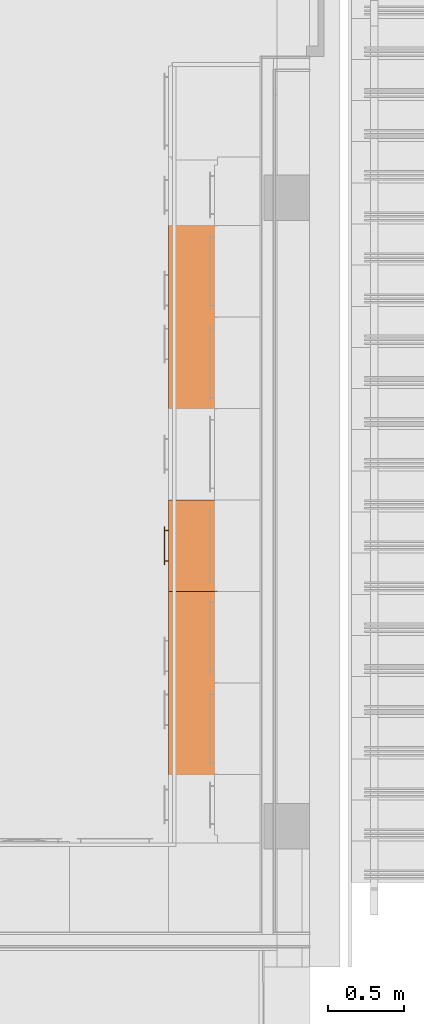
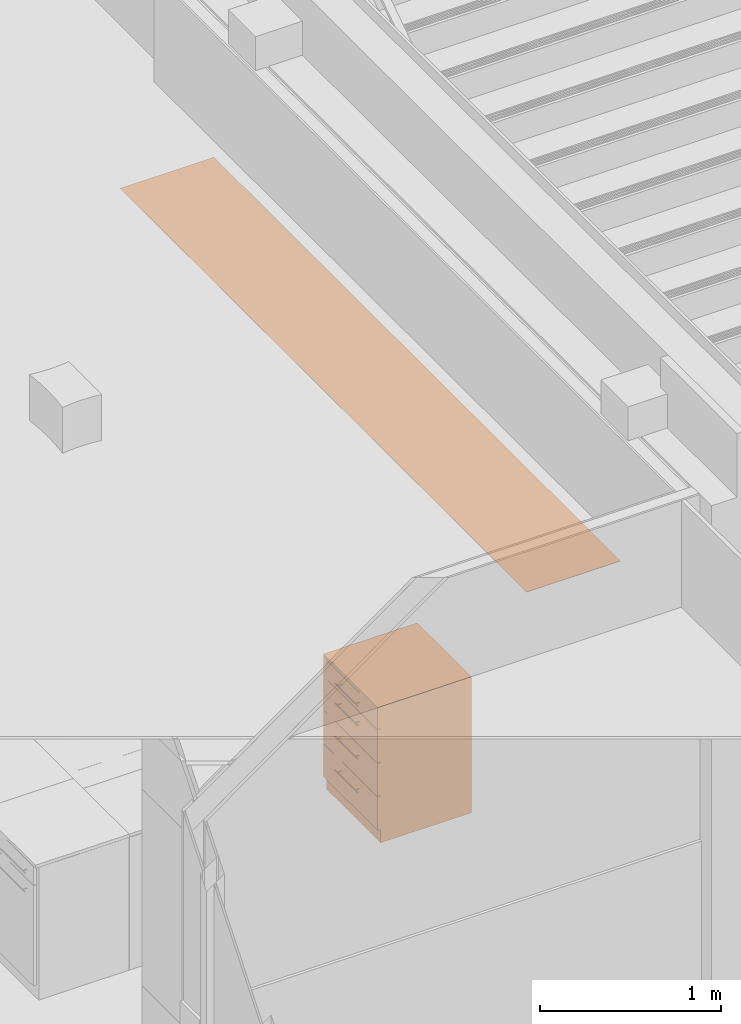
# One storey, part 146 of 167: 2 proxies.
"""IFC2X3 building model written with IfcOpenShell, lengths in millimetres."""

from ifc_helpers import new_model, entity, si_unit, converted_unit, derived_unit, money_unit, direction, frame, origin_with_axes, place, context, subcontext, project, spatial, open_shell, faceted_brep, surface_model, material, type_object, element, save


model = new_model("IFC2X3")

# Units and contexts
model_context = context("Model", 3, precision=0.01, world=origin_with_axes(), true_north=direction((0.0, 1.0)))
plan_context = context("Plan", 3, precision=0.01, world=origin_with_axes(), true_north=direction((0.0, 1.0)))
body_context = subcontext(model_context, "Body", "Model", "MODEL_VIEW")
ifc_project = project(units=[si_unit("LENGTHUNIT", "METRE", prefix="MILLI"), si_unit("AREAUNIT", "SQUARE_METRE"), si_unit("VOLUMEUNIT", "CUBIC_METRE"), converted_unit("PLANEANGLEUNIT", "DEGREE", entity("IfcPlaneAngleMeasure", 0.0174532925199), si_unit("PLANEANGLEUNIT", "RADIAN"), dimensions=[0, 0, 0, 0, 0, 0, 0]), si_unit("SOLIDANGLEUNIT", "STERADIAN"), money_unit("EUR"), converted_unit("TIMEUNIT", "Year", entity("IfcTimeMeasure", 31556926.0), si_unit("TIMEUNIT", "SECOND"), dimensions=[0, 0, 1, 0, 0, 0, 0]), si_unit("MASSUNIT", "GRAM", prefix="KILO"), si_unit("THERMODYNAMICTEMPERATUREUNIT", "DEGREE_CELSIUS"), si_unit("LUMINOUSINTENSITYUNIT", "LUMEN"), si_unit("ENERGYUNIT", "JOULE", prefix="MEGA"), derived_unit("THERMALCONDUCTANCEUNIT", [(si_unit("POWERUNIT", "WATT"), 1), (si_unit("LENGTHUNIT", "METRE"), -1), (si_unit("THERMODYNAMICTEMPERATUREUNIT", "KELVIN"), -1)]), derived_unit("SPECIFICHEATCAPACITYUNIT", [(si_unit("ENERGYUNIT", "JOULE"), 1), (si_unit("MASSUNIT", "GRAM", prefix="KILO"), -1), (si_unit("THERMODYNAMICTEMPERATUREUNIT", "KELVIN"), -1)]), derived_unit("MASSDENSITYUNIT", [(si_unit("MASSUNIT", "GRAM", prefix="KILO"), 1), (si_unit("VOLUMEUNIT", "CUBIC_METRE"), -1)])], contexts=[model_context, plan_context])

# Site, building, storey
site_placement = place(None, origin_with_axes())
site = spatial("IfcSite", under=ifc_project, at=site_placement, Name="Site", CompositionType="ELEMENT")
building_placement = place(site_placement, origin_with_axes())
building = spatial("IfcBuilding", under=site, at=building_placement, Name="Naam gebouw", CompositionType="ELEMENT")
storey_placement = place(building_placement, origin_with_axes())
storey = spatial("IfcBuildingStorey", under=building, at=storey_placement, Name="Begane grond", CompositionType="ELEMENT", Elevation=0.0)

# Proxies
building_element_proxy_type_1 = type_object("IfcBuildingElementProxyType", Name="Kast basis multilade 24", PredefinedType="NOTDEFINED")
proxy_1_placement = place(storey_placement, frame((27875.0, 26816.7322881, 0.0), z_axis=(0.0, 0.0, 1.0), x_axis=(0.0, -1.0, 0.0)))
element("IfcBuildingElementProxy", 1, at=proxy_1_placement, inside=storey, type_object=building_element_proxy_type_1, Name="__Object-x", context=body_context, shape_type="SurfaceModel", body=[
    faceted_brep([(1.5, 20.0, 91.5), (598.5, 20.0, 91.5), (598.5, 0.0, 91.5), (1.5, 0.0, 91.5), (1.5, 20.0, 315.166666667), (598.5, 20.0, 315.166666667), (598.5, 0.0, 315.166666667), (1.5, 0.0, 315.166666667)], [[[0, 1, 2, 3]], [[0, 4, 5, 1]], [[1, 5, 6, 2]], [[3, 2, 6, 7]], [[4, 0, 3, 7]], [[5, 4, 7, 6]]]),
    faceted_brep([(175.0, -28.1480502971, 248.895028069), (175.0, -29.1213203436, 249.545346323), (175.0, -29.7716385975, 250.51861637), (175.0, -30.0, 251.666666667), (175.0, -29.7716385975, 252.814716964), (175.0, -29.1213203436, 253.78798701), (175.0, -28.1480502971, 254.438305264), (175.0, -27.0, 254.666666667), (175.0, -25.8519497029, 254.438305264), (175.0, -24.8786796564, 253.78798701), (175.0, -24.2283614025, 252.814716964), (175.0, -24.0, 251.666666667), (175.0, -24.2283614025, 250.51861637), (175.0, -24.8786796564, 249.545346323), (175.0, -25.8519497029, 248.895028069), (175.0, -27.0, 248.666666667), (425.0, -28.1480502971, 248.895028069), (425.0, -29.1213203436, 249.545346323), (425.0, -29.7716385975, 250.51861637), (425.0, -30.0, 251.666666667), (425.0, -29.7716385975, 252.814716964), (425.0, -29.1213203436, 253.78798701), (425.0, -28.1480502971, 254.438305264), (425.0, -27.0, 254.666666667), (425.0, -25.8519497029, 254.438305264), (425.0, -24.8786796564, 253.78798701), (425.0, -24.2283614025, 252.814716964), (425.0, -24.0, 251.666666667), (425.0, -24.2283614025, 250.51861637), (425.0, -24.8786796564, 249.545346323), (425.0, -25.8519497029, 248.895028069), (425.0, -27.0, 248.666666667)], [[[0, 1, 2, 3, 4, 5, 6, 7, 8, 9, 10, 11, 12, 13, 14, 15]], [[1, 0, 16, 17]], [[2, 1, 17, 18]], [[3, 2, 18, 19]], [[4, 3, 19, 20]], [[5, 4, 20, 21]], [[6, 5, 21, 22]], [[7, 6, 22, 23]], [[8, 7, 23, 24]], [[9, 8, 24, 25]], [[10, 9, 25, 26]], [[11, 10, 26, 27]], [[12, 11, 27, 28]], [[13, 12, 28, 29]], [[14, 13, 29, 30]], [[15, 14, 30, 31]], [[0, 15, 31, 16]], [[16, 31, 30, 29, 28, 27, 26, 25, 24, 23, 22, 21, 20, 19, 18, 17]]]),
    surface_model("IfcShellBasedSurfaceModel", [(197.690301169, -24.156637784, 250.709958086), (197.5, -24.0, 251.666666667), (197.5, 0.0, 251.666666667), (197.690301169, 0.0, 250.709958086), (197.690301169, -24.156637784, 252.623375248), (197.690301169, 0.0, 252.623375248), (198.232233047, 0.0, 253.43443362), (199.043291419, 0.0, 253.976365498), (200.0, 0.0, 254.166666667), (200.956708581, 0.0, 253.976365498), (201.767766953, 0.0, 253.43443362), (202.309698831, 0.0, 252.623375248), (202.5, 0.0, 251.666666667), (202.309698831, 0.0, 250.709958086), (201.767766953, 0.0, 249.898899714), (200.956708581, 0.0, 249.356967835), (200.0, 0.0, 249.166666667), (199.043291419, 0.0, 249.356967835), (198.232233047, 0.0, 249.898899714), (198.232233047, -24.5761600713, 249.898899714), (198.232233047, -24.5761600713, 253.43443362), (199.043291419, -25.0855049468, 253.976365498), (200.0, -25.3416876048, 254.166666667), (200.956708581, -25.0855049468, 253.976365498), (201.767766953, -24.5761600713, 253.43443362), (202.309698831, -24.156637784, 252.623375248), (202.5, -24.0, 251.666666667), (202.309698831, -24.156637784, 250.709958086), (201.767766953, -24.5761600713, 249.898899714), (200.956708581, -25.0855049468, 249.356967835), (200.0, -25.3416876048, 249.166666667), (199.043291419, -25.0855049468, 249.356967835)], [open_shell([[[0, 1, 2, 3]], [[1, 4, 5, 2]], [[3, 2, 5, 6, 7, 8, 9, 10, 11, 12, 13, 14, 15, 16, 17, 18]], [[19, 0, 3, 18]], [[4, 20, 6, 5]], [[20, 21, 7, 6]], [[21, 22, 8, 7]], [[22, 23, 9, 8]], [[23, 24, 10, 9]], [[24, 25, 11, 10]], [[25, 26, 12, 11]], [[26, 27, 13, 12]], [[27, 28, 14, 13]], [[28, 29, 15, 14]], [[29, 30, 16, 15]], [[30, 31, 17, 16]], [[31, 19, 18, 17]]])]),
    surface_model("IfcShellBasedSurfaceModel", [(397.690301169, -24.156637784, 250.709958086), (397.5, -24.0, 251.666666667), (397.5, 0.0, 251.666666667), (397.690301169, 0.0, 250.709958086), (397.690301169, -24.156637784, 252.623375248), (397.690301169, 0.0, 252.623375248), (398.232233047, 0.0, 253.43443362), (399.043291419, 0.0, 253.976365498), (400.0, 0.0, 254.166666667), (400.956708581, 0.0, 253.976365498), (401.767766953, 0.0, 253.43443362), (402.309698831, 0.0, 252.623375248), (402.5, 0.0, 251.666666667), (402.309698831, 0.0, 250.709958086), (401.767766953, 0.0, 249.898899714), (400.956708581, 0.0, 249.356967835), (400.0, 0.0, 249.166666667), (399.043291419, 0.0, 249.356967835), (398.232233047, 0.0, 249.898899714), (398.232233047, -24.5761600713, 249.898899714), (398.232233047, -24.5761600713, 253.43443362), (399.043291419, -25.0855049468, 253.976365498), (400.0, -25.3416876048, 254.166666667), (400.956708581, -25.0855049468, 253.976365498), (401.767766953, -24.5761600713, 253.43443362), (402.309698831, -24.156637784, 252.623375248), (402.5, -24.0, 251.666666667), (402.309698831, -24.156637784, 250.709958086), (401.767766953, -24.5761600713, 249.898899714), (400.956708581, -25.0855049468, 249.356967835), (400.0, -25.3416876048, 249.166666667), (399.043291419, -25.0855049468, 249.356967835)], [open_shell([[[0, 1, 2, 3]], [[1, 4, 5, 2]], [[3, 2, 5, 6, 7, 8, 9, 10, 11, 12, 13, 14, 15, 16, 17, 18]], [[19, 0, 3, 18]], [[4, 20, 6, 5]], [[20, 21, 7, 6]], [[21, 22, 8, 7]], [[22, 23, 9, 8]], [[23, 24, 10, 9]], [[24, 25, 11, 10]], [[25, 26, 12, 11]], [[26, 27, 13, 12]], [[27, 28, 14, 13]], [[28, 29, 15, 14]], [[29, 30, 16, 15]], [[30, 31, 17, 16]], [[31, 19, 18, 17]]])]),
    faceted_brep([(1.5, 20.0, 318.166666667), (598.5, 20.0, 318.166666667), (598.5, 0.0, 318.166666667), (1.5, 0.0, 318.166666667), (1.5, 20.0, 541.833333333), (598.5, 20.0, 541.833333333), (598.5, 0.0, 541.833333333), (1.5, 0.0, 541.833333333)], [[[0, 1, 2, 3]], [[0, 4, 5, 1]], [[1, 5, 6, 2]], [[3, 2, 6, 7]], [[4, 0, 3, 7]], [[5, 4, 7, 6]]]),
    faceted_brep([(175.0, -28.1480502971, 475.561694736), (175.0, -29.1213203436, 476.21201299), (175.0, -29.7716385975, 477.185283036), (175.0, -30.0, 478.333333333), (175.0, -29.7716385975, 479.48138363), (175.0, -29.1213203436, 480.454653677), (175.0, -28.1480502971, 481.104971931), (175.0, -27.0, 481.333333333), (175.0, -25.8519497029, 481.104971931), (175.0, -24.8786796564, 480.454653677), (175.0, -24.2283614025, 479.48138363), (175.0, -24.0, 478.333333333), (175.0, -24.2283614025, 477.185283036), (175.0, -24.8786796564, 476.21201299), (175.0, -25.8519497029, 475.561694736), (175.0, -27.0, 475.333333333), (425.0, -28.1480502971, 475.561694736), (425.0, -29.1213203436, 476.21201299), (425.0, -29.7716385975, 477.185283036), (425.0, -30.0, 478.333333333), (425.0, -29.7716385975, 479.48138363), (425.0, -29.1213203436, 480.454653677), (425.0, -28.1480502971, 481.104971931), (425.0, -27.0, 481.333333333), (425.0, -25.8519497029, 481.104971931), (425.0, -24.8786796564, 480.454653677), (425.0, -24.2283614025, 479.48138363), (425.0, -24.0, 478.333333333), (425.0, -24.2283614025, 477.185283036), (425.0, -24.8786796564, 476.21201299), (425.0, -25.8519497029, 475.561694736), (425.0, -27.0, 475.333333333)], [[[0, 1, 2, 3, 4, 5, 6, 7, 8, 9, 10, 11, 12, 13, 14, 15]], [[1, 0, 16, 17]], [[2, 1, 17, 18]], [[3, 2, 18, 19]], [[4, 3, 19, 20]], [[5, 4, 20, 21]], [[6, 5, 21, 22]], [[7, 6, 22, 23]], [[8, 7, 23, 24]], [[9, 8, 24, 25]], [[10, 9, 25, 26]], [[11, 10, 26, 27]], [[12, 11, 27, 28]], [[13, 12, 28, 29]], [[14, 13, 29, 30]], [[15, 14, 30, 31]], [[0, 15, 31, 16]], [[16, 31, 30, 29, 28, 27, 26, 25, 24, 23, 22, 21, 20, 19, 18, 17]]]),
    surface_model("IfcShellBasedSurfaceModel", [(197.690301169, -24.156637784, 477.376624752), (197.5, -24.0, 478.333333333), (197.5, 0.0, 478.333333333), (197.690301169, 0.0, 477.376624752), (197.690301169, -24.156637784, 479.290041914), (197.690301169, 0.0, 479.290041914), (198.232233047, 0.0, 480.101100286), (199.043291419, 0.0, 480.643032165), (200.0, 0.0, 480.833333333), (200.956708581, 0.0, 480.643032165), (201.767766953, 0.0, 480.101100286), (202.309698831, 0.0, 479.290041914), (202.5, 0.0, 478.333333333), (202.309698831, 0.0, 477.376624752), (201.767766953, 0.0, 476.56556638), (200.956708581, 0.0, 476.023634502), (200.0, 0.0, 475.833333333), (199.043291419, 0.0, 476.023634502), (198.232233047, 0.0, 476.56556638), (198.232233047, -24.5761600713, 476.56556638), (198.232233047, -24.5761600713, 480.101100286), (199.043291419, -25.0855049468, 480.643032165), (200.0, -25.3416876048, 480.833333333), (200.956708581, -25.0855049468, 480.643032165), (201.767766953, -24.5761600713, 480.101100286), (202.309698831, -24.156637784, 479.290041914), (202.5, -24.0, 478.333333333), (202.309698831, -24.156637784, 477.376624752), (201.767766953, -24.5761600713, 476.56556638), (200.956708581, -25.0855049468, 476.023634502), (200.0, -25.3416876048, 475.833333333), (199.043291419, -25.0855049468, 476.023634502)], [open_shell([[[0, 1, 2, 3]], [[1, 4, 5, 2]], [[3, 2, 5, 6, 7, 8, 9, 10, 11, 12, 13, 14, 15, 16, 17, 18]], [[19, 0, 3, 18]], [[4, 20, 6, 5]], [[20, 21, 7, 6]], [[21, 22, 8, 7]], [[22, 23, 9, 8]], [[23, 24, 10, 9]], [[24, 25, 11, 10]], [[25, 26, 12, 11]], [[26, 27, 13, 12]], [[27, 28, 14, 13]], [[28, 29, 15, 14]], [[29, 30, 16, 15]], [[30, 31, 17, 16]], [[31, 19, 18, 17]]])]),
    surface_model("IfcShellBasedSurfaceModel", [(397.690301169, -24.156637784, 477.376624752), (397.5, -24.0, 478.333333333), (397.5, 0.0, 478.333333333), (397.690301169, 0.0, 477.376624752), (397.690301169, -24.156637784, 479.290041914), (397.690301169, 0.0, 479.290041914), (398.232233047, 0.0, 480.101100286), (399.043291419, 0.0, 480.643032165), (400.0, 0.0, 480.833333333), (400.956708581, 0.0, 480.643032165), (401.767766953, 0.0, 480.101100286), (402.309698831, 0.0, 479.290041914), (402.5, 0.0, 478.333333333), (402.309698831, 0.0, 477.376624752), (401.767766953, 0.0, 476.56556638), (400.956708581, 0.0, 476.023634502), (400.0, 0.0, 475.833333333), (399.043291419, 0.0, 476.023634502), (398.232233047, 0.0, 476.56556638), (398.232233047, -24.5761600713, 476.56556638), (398.232233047, -24.5761600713, 480.101100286), (399.043291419, -25.0855049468, 480.643032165), (400.0, -25.3416876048, 480.833333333), (400.956708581, -25.0855049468, 480.643032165), (401.767766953, -24.5761600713, 480.101100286), (402.309698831, -24.156637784, 479.290041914), (402.5, -24.0, 478.333333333), (402.309698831, -24.156637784, 477.376624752), (401.767766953, -24.5761600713, 476.56556638), (400.956708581, -25.0855049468, 476.023634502), (400.0, -25.3416876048, 475.833333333), (399.043291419, -25.0855049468, 476.023634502)], [open_shell([[[0, 1, 2, 3]], [[1, 4, 5, 2]], [[3, 2, 5, 6, 7, 8, 9, 10, 11, 12, 13, 14, 15, 16, 17, 18]], [[19, 0, 3, 18]], [[4, 20, 6, 5]], [[20, 21, 7, 6]], [[21, 22, 8, 7]], [[22, 23, 9, 8]], [[23, 24, 10, 9]], [[24, 25, 11, 10]], [[25, 26, 12, 11]], [[26, 27, 13, 12]], [[27, 28, 14, 13]], [[28, 29, 15, 14]], [[29, 30, 16, 15]], [[30, 31, 17, 16]], [[31, 19, 18, 17]]])]),
    faceted_brep([(20.0, 20.0, 316.666666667), (580.0, 20.0, 316.666666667), (580.0, 20.0, 336.666666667), (20.0, 20.0, 336.666666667), (20.0, 580.0, 316.666666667), (580.0, 580.0, 316.666666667), (580.0, 580.0, 336.666666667), (20.0, 580.0, 336.666666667)], [[[0, 1, 2, 3]], [[0, 4, 5, 1]], [[1, 5, 6, 2]], [[3, 2, 6, 7]], [[4, 0, 3, 7]], [[5, 4, 7, 6]]]),
    faceted_brep([(1.5, 20.0, 544.833333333), (598.5, 20.0, 544.833333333), (598.5, 0.0, 544.833333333), (1.5, 0.0, 544.833333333), (1.5, 20.0, 768.5), (598.5, 20.0, 768.5), (598.5, 0.0, 768.5), (1.5, 0.0, 768.5)], [[[0, 1, 2, 3]], [[0, 4, 5, 1]], [[1, 5, 6, 2]], [[3, 2, 6, 7]], [[4, 0, 3, 7]], [[5, 4, 7, 6]]]),
    faceted_brep([(175.0, -28.1480502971, 702.228361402), (175.0, -29.1213203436, 702.878679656), (175.0, -29.7716385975, 703.851949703), (175.0, -30.0, 705.0), (175.0, -29.7716385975, 706.148050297), (175.0, -29.1213203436, 707.121320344), (175.0, -28.1480502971, 707.771638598), (175.0, -27.0, 708.0), (175.0, -25.8519497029, 707.771638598), (175.0, -24.8786796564, 707.121320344), (175.0, -24.2283614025, 706.148050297), (175.0, -24.0, 705.0), (175.0, -24.2283614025, 703.851949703), (175.0, -24.8786796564, 702.878679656), (175.0, -25.8519497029, 702.228361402), (175.0, -27.0, 702.0), (425.0, -28.1480502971, 702.228361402), (425.0, -29.1213203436, 702.878679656), (425.0, -29.7716385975, 703.851949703), (425.0, -30.0, 705.0), (425.0, -29.7716385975, 706.148050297), (425.0, -29.1213203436, 707.121320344), (425.0, -28.1480502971, 707.771638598), (425.0, -27.0, 708.0), (425.0, -25.8519497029, 707.771638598), (425.0, -24.8786796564, 707.121320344), (425.0, -24.2283614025, 706.148050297), (425.0, -24.0, 705.0), (425.0, -24.2283614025, 703.851949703), (425.0, -24.8786796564, 702.878679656), (425.0, -25.8519497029, 702.228361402), (425.0, -27.0, 702.0)], [[[0, 1, 2, 3, 4, 5, 6, 7, 8, 9, 10, 11, 12, 13, 14, 15]], [[1, 0, 16, 17]], [[2, 1, 17, 18]], [[3, 2, 18, 19]], [[4, 3, 19, 20]], [[5, 4, 20, 21]], [[6, 5, 21, 22]], [[7, 6, 22, 23]], [[8, 7, 23, 24]], [[9, 8, 24, 25]], [[10, 9, 25, 26]], [[11, 10, 26, 27]], [[12, 11, 27, 28]], [[13, 12, 28, 29]], [[14, 13, 29, 30]], [[15, 14, 30, 31]], [[0, 15, 31, 16]], [[16, 31, 30, 29, 28, 27, 26, 25, 24, 23, 22, 21, 20, 19, 18, 17]]]),
    surface_model("IfcShellBasedSurfaceModel", [(197.690301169, -24.156637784, 704.043291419), (197.5, -24.0, 705.0), (197.5, 0.0, 705.0), (197.690301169, 0.0, 704.043291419), (197.690301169, -24.156637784, 705.956708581), (197.690301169, 0.0, 705.956708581), (198.232233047, 0.0, 706.767766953), (199.043291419, 0.0, 707.309698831), (200.0, 0.0, 707.5), (200.956708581, 0.0, 707.309698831), (201.767766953, 0.0, 706.767766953), (202.309698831, 0.0, 705.956708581), (202.5, 0.0, 705.0), (202.309698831, 0.0, 704.043291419), (201.767766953, 0.0, 703.232233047), (200.956708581, 0.0, 702.690301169), (200.0, 0.0, 702.5), (199.043291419, 0.0, 702.690301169), (198.232233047, 0.0, 703.232233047), (198.232233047, -24.5761600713, 703.232233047), (198.232233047, -24.5761600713, 706.767766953), (199.043291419, -25.0855049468, 707.309698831), (200.0, -25.3416876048, 707.5), (200.956708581, -25.0855049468, 707.309698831), (201.767766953, -24.5761600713, 706.767766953), (202.309698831, -24.156637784, 705.956708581), (202.5, -24.0, 705.0), (202.309698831, -24.156637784, 704.043291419), (201.767766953, -24.5761600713, 703.232233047), (200.956708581, -25.0855049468, 702.690301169), (200.0, -25.3416876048, 702.5), (199.043291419, -25.0855049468, 702.690301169)], [open_shell([[[0, 1, 2, 3]], [[1, 4, 5, 2]], [[3, 2, 5, 6, 7, 8, 9, 10, 11, 12, 13, 14, 15, 16, 17, 18]], [[19, 0, 3, 18]], [[4, 20, 6, 5]], [[20, 21, 7, 6]], [[21, 22, 8, 7]], [[22, 23, 9, 8]], [[23, 24, 10, 9]], [[24, 25, 11, 10]], [[25, 26, 12, 11]], [[26, 27, 13, 12]], [[27, 28, 14, 13]], [[28, 29, 15, 14]], [[29, 30, 16, 15]], [[30, 31, 17, 16]], [[31, 19, 18, 17]]])]),
    surface_model("IfcShellBasedSurfaceModel", [(397.690301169, -24.156637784, 704.043291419), (397.5, -24.0, 705.0), (397.5, 0.0, 705.0), (397.690301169, 0.0, 704.043291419), (397.690301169, -24.156637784, 705.956708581), (397.690301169, 0.0, 705.956708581), (398.232233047, 0.0, 706.767766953), (399.043291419, 0.0, 707.309698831), (400.0, 0.0, 707.5), (400.956708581, 0.0, 707.309698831), (401.767766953, 0.0, 706.767766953), (402.309698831, 0.0, 705.956708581), (402.5, 0.0, 705.0), (402.309698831, 0.0, 704.043291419), (401.767766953, 0.0, 703.232233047), (400.956708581, 0.0, 702.690301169), (400.0, 0.0, 702.5), (399.043291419, 0.0, 702.690301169), (398.232233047, 0.0, 703.232233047), (398.232233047, -24.5761600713, 703.232233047), (398.232233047, -24.5761600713, 706.767766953), (399.043291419, -25.0855049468, 707.309698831), (400.0, -25.3416876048, 707.5), (400.956708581, -25.0855049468, 707.309698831), (401.767766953, -24.5761600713, 706.767766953), (402.309698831, -24.156637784, 705.956708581), (402.5, -24.0, 705.0), (402.309698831, -24.156637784, 704.043291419), (401.767766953, -24.5761600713, 703.232233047), (400.956708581, -25.0855049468, 702.690301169), (400.0, -25.3416876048, 702.5), (399.043291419, -25.0855049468, 702.690301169)], [open_shell([[[0, 1, 2, 3]], [[1, 4, 5, 2]], [[3, 2, 5, 6, 7, 8, 9, 10, 11, 12, 13, 14, 15, 16, 17, 18]], [[19, 0, 3, 18]], [[4, 20, 6, 5]], [[20, 21, 7, 6]], [[21, 22, 8, 7]], [[22, 23, 9, 8]], [[23, 24, 10, 9]], [[24, 25, 11, 10]], [[25, 26, 12, 11]], [[26, 27, 13, 12]], [[27, 28, 14, 13]], [[28, 29, 15, 14]], [[29, 30, 16, 15]], [[30, 31, 17, 16]], [[31, 19, 18, 17]]])]),
    faceted_brep([(20.0, 20.0, 543.333333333), (580.0, 20.0, 543.333333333), (580.0, 20.0, 563.333333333), (20.0, 20.0, 563.333333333), (20.0, 580.0, 543.333333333), (580.0, 580.0, 543.333333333), (580.0, 580.0, 563.333333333), (20.0, 580.0, 563.333333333)], [[[0, 1, 2, 3]], [[0, 4, 5, 1]], [[1, 5, 6, 2]], [[3, 2, 6, 7]], [[4, 0, 3, 7]], [[5, 4, 7, 6]]]),
    faceted_brep([(1.5, 20.0, 771.5), (598.5, 20.0, 771.5), (598.5, 0.0, 771.5), (1.5, 0.0, 771.5), (1.5, 20.0, 898.5), (598.5, 20.0, 898.5), (598.5, 0.0, 898.5), (1.5, 0.0, 898.5)], [[[0, 1, 2, 3]], [[0, 4, 5, 1]], [[1, 5, 6, 2]], [[3, 2, 6, 7]], [[4, 0, 3, 7]], [[5, 4, 7, 6]]]),
    faceted_brep([(175.0, -28.1480502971, 832.228361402), (175.0, -29.1213203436, 832.878679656), (175.0, -29.7716385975, 833.851949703), (175.0, -30.0, 835.0), (175.0, -29.7716385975, 836.148050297), (175.0, -29.1213203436, 837.121320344), (175.0, -28.1480502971, 837.771638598), (175.0, -27.0, 838.0), (175.0, -25.8519497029, 837.771638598), (175.0, -24.8786796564, 837.121320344), (175.0, -24.2283614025, 836.148050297), (175.0, -24.0, 835.0), (175.0, -24.2283614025, 833.851949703), (175.0, -24.8786796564, 832.878679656), (175.0, -25.8519497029, 832.228361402), (175.0, -27.0, 832.0), (425.0, -28.1480502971, 832.228361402), (425.0, -29.1213203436, 832.878679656), (425.0, -29.7716385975, 833.851949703), (425.0, -30.0, 835.0), (425.0, -29.7716385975, 836.148050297), (425.0, -29.1213203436, 837.121320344), (425.0, -28.1480502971, 837.771638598), (425.0, -27.0, 838.0), (425.0, -25.8519497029, 837.771638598), (425.0, -24.8786796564, 837.121320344), (425.0, -24.2283614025, 836.148050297), (425.0, -24.0, 835.0), (425.0, -24.2283614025, 833.851949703), (425.0, -24.8786796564, 832.878679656), (425.0, -25.8519497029, 832.228361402), (425.0, -27.0, 832.0)], [[[0, 1, 2, 3, 4, 5, 6, 7, 8, 9, 10, 11, 12, 13, 14, 15]], [[1, 0, 16, 17]], [[2, 1, 17, 18]], [[3, 2, 18, 19]], [[4, 3, 19, 20]], [[5, 4, 20, 21]], [[6, 5, 21, 22]], [[7, 6, 22, 23]], [[8, 7, 23, 24]], [[9, 8, 24, 25]], [[10, 9, 25, 26]], [[11, 10, 26, 27]], [[12, 11, 27, 28]], [[13, 12, 28, 29]], [[14, 13, 29, 30]], [[15, 14, 30, 31]], [[0, 15, 31, 16]], [[16, 31, 30, 29, 28, 27, 26, 25, 24, 23, 22, 21, 20, 19, 18, 17]]]),
    surface_model("IfcShellBasedSurfaceModel", [(197.690301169, -24.156637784, 834.043291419), (197.5, -24.0, 835.0), (197.5, 0.0, 835.0), (197.690301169, 0.0, 834.043291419), (197.690301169, -24.156637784, 835.956708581), (197.690301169, 0.0, 835.956708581), (198.232233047, 0.0, 836.767766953), (199.043291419, 0.0, 837.309698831), (200.0, 0.0, 837.5), (200.956708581, 0.0, 837.309698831), (201.767766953, 0.0, 836.767766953), (202.309698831, 0.0, 835.956708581), (202.5, 0.0, 835.0), (202.309698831, 0.0, 834.043291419), (201.767766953, 0.0, 833.232233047), (200.956708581, 0.0, 832.690301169), (200.0, 0.0, 832.5), (199.043291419, 0.0, 832.690301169), (198.232233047, 0.0, 833.232233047), (198.232233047, -24.5761600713, 833.232233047), (198.232233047, -24.5761600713, 836.767766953), (199.043291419, -25.0855049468, 837.309698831), (200.0, -25.3416876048, 837.5), (200.956708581, -25.0855049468, 837.309698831), (201.767766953, -24.5761600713, 836.767766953), (202.309698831, -24.156637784, 835.956708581), (202.5, -24.0, 835.0), (202.309698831, -24.156637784, 834.043291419), (201.767766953, -24.5761600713, 833.232233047), (200.956708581, -25.0855049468, 832.690301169), (200.0, -25.3416876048, 832.5), (199.043291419, -25.0855049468, 832.690301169)], [open_shell([[[0, 1, 2, 3]], [[1, 4, 5, 2]], [[3, 2, 5, 6, 7, 8, 9, 10, 11, 12, 13, 14, 15, 16, 17, 18]], [[19, 0, 3, 18]], [[4, 20, 6, 5]], [[20, 21, 7, 6]], [[21, 22, 8, 7]], [[22, 23, 9, 8]], [[23, 24, 10, 9]], [[24, 25, 11, 10]], [[25, 26, 12, 11]], [[26, 27, 13, 12]], [[27, 28, 14, 13]], [[28, 29, 15, 14]], [[29, 30, 16, 15]], [[30, 31, 17, 16]], [[31, 19, 18, 17]]])]),
    surface_model("IfcShellBasedSurfaceModel", [(397.690301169, -24.156637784, 834.043291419), (397.5, -24.0, 835.0), (397.5, 0.0, 835.0), (397.690301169, 0.0, 834.043291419), (397.690301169, -24.156637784, 835.956708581), (397.690301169, 0.0, 835.956708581), (398.232233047, 0.0, 836.767766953), (399.043291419, 0.0, 837.309698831), (400.0, 0.0, 837.5), (400.956708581, 0.0, 837.309698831), (401.767766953, 0.0, 836.767766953), (402.309698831, 0.0, 835.956708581), (402.5, 0.0, 835.0), (402.309698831, 0.0, 834.043291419), (401.767766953, 0.0, 833.232233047), (400.956708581, 0.0, 832.690301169), (400.0, 0.0, 832.5), (399.043291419, 0.0, 832.690301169), (398.232233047, 0.0, 833.232233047), (398.232233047, -24.5761600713, 833.232233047), (398.232233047, -24.5761600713, 836.767766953), (399.043291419, -25.0855049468, 837.309698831), (400.0, -25.3416876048, 837.5), (400.956708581, -25.0855049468, 837.309698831), (401.767766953, -24.5761600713, 836.767766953), (402.309698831, -24.156637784, 835.956708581), (402.5, -24.0, 835.0), (402.309698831, -24.156637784, 834.043291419), (401.767766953, -24.5761600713, 833.232233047), (400.956708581, -25.0855049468, 832.690301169), (400.0, -25.3416876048, 832.5), (399.043291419, -25.0855049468, 832.690301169)], [open_shell([[[0, 1, 2, 3]], [[1, 4, 5, 2]], [[3, 2, 5, 6, 7, 8, 9, 10, 11, 12, 13, 14, 15, 16, 17, 18]], [[19, 0, 3, 18]], [[4, 20, 6, 5]], [[20, 21, 7, 6]], [[21, 22, 8, 7]], [[22, 23, 9, 8]], [[23, 24, 10, 9]], [[24, 25, 11, 10]], [[25, 26, 12, 11]], [[26, 27, 13, 12]], [[27, 28, 14, 13]], [[28, 29, 15, 14]], [[29, 30, 16, 15]], [[30, 31, 17, 16]], [[31, 19, 18, 17]]])]),
    faceted_brep([(20.0, 20.0, 770.0), (580.0, 20.0, 770.0), (580.0, 20.0, 790.0), (20.0, 20.0, 790.0), (20.0, 580.0, 770.0), (580.0, 580.0, 770.0), (580.0, 580.0, 790.0), (20.0, 580.0, 790.0)], [[[0, 1, 2, 3]], [[0, 4, 5, 1]], [[1, 5, 6, 2]], [[3, 2, 6, 7]], [[4, 0, 3, 7]], [[5, 4, 7, 6]]]),
    faceted_brep([(0.0, 20.0, 0.0), (600.0, 20.0, 0.0), (600.0, 20.0, 90.0), (0.0, 20.0, 90.0), (0.0, 600.0, 0.0), (600.0, 600.0, 0.0), (600.0, 600.0, 90.0), (0.0, 600.0, 90.0)], [[[0, 1, 2, 3]], [[0, 4, 5, 1]], [[1, 5, 6, 2]], [[3, 2, 6, 7]], [[4, 0, 3, 7]], [[5, 4, 7, 6]]]),
    faceted_brep([(0.0, 20.0, 880.0), (20.0, 20.0, 880.0), (20.0, 20.0, 900.0), (0.0, 20.0, 900.0), (0.0, 600.0, 880.0), (20.0, 600.0, 880.0), (580.0, 600.0, 880.0), (600.0, 600.0, 880.0), (600.0, 20.0, 880.0), (580.0, 20.0, 880.0), (580.0, 20.0, 900.0), (600.0, 20.0, 900.0), (600.0, 600.0, 900.0), (580.0, 600.0, 900.0), (20.0, 600.0, 900.0), (0.0, 600.0, 900.0)], [[[0, 1, 2, 3]], [[0, 4, 5, 6, 7, 8, 9, 1]], [[1, 9, 10, 2]], [[3, 2, 10, 11, 12, 13, 14, 15]], [[4, 0, 3, 15]], [[5, 4, 15, 14]], [[6, 5, 14, 13]], [[7, 6, 13, 12]], [[8, 7, 12, 11]], [[9, 8, 11, 10]]]),
    faceted_brep([(0.0, 20.0, 90.0), (20.0, 20.0, 90.0), (20.0, 20.0, 110.0), (0.0, 20.0, 110.0), (0.0, 600.0, 90.0), (20.0, 600.0, 90.0), (580.0, 600.0, 90.0), (600.0, 600.0, 90.0), (600.0, 20.0, 90.0), (580.0, 20.0, 90.0), (580.0, 20.0, 110.0), (600.0, 20.0, 110.0), (600.0, 600.0, 110.0), (580.0, 600.0, 110.0), (20.0, 600.0, 110.0), (0.0, 600.0, 110.0)], [[[0, 1, 2, 3]], [[0, 4, 5, 6, 7, 8, 9, 1]], [[1, 9, 10, 2]], [[3, 2, 10, 11, 12, 13, 14, 15]], [[4, 0, 3, 15]], [[5, 4, 15, 14]], [[6, 5, 14, 13]], [[7, 6, 13, 12]], [[8, 7, 12, 11]], [[9, 8, 11, 10]]]),
    faceted_brep([(0.0, 20.0, 110.0), (20.0, 20.0, 110.0), (20.0, 20.0, 880.0), (0.0, 20.0, 880.0), (0.0, 600.0, 110.0), (600.0, 600.0, 110.0), (600.0, 20.0, 110.0), (580.0, 20.0, 110.0), (580.0, 580.0, 110.0), (20.0, 580.0, 110.0), (20.0, 580.0, 880.0), (580.0, 580.0, 880.0), (580.0, 20.0, 880.0), (600.0, 20.0, 880.0), (600.0, 600.0, 880.0), (0.0, 600.0, 880.0)], [[[0, 1, 2, 3]], [[0, 4, 5, 6, 7, 8, 9, 1]], [[1, 9, 10, 2]], [[3, 2, 10, 11, 12, 13, 14, 15]], [[4, 0, 3, 15]], [[5, 4, 15, 14]], [[6, 5, 14, 13]], [[7, 6, 13, 12]], [[8, 7, 12, 11]], [[9, 8, 11, 10]]]),
    faceted_brep([(0.0, 0.0, 900.0), (600.0, 0.0, 900.0), (600.0, 0.0, 920.0), (0.0, 0.0, 920.0), (0.0, 600.0, 900.0), (600.0, 600.0, 900.0), (600.0, 600.0, 920.0), (0.0, 600.0, 920.0)], [[[0, 1, 2, 3]], [[0, 4, 5, 1]], [[1, 5, 6, 2]], [[3, 2, 6, 7]], [[4, 0, 3, 7]], [[5, 4, 7, 6]]]),
])
ifc_material = material(Name="_TenW_24_Hout - Multiplex")
building_element_proxy_type_2 = type_object("IfcBuildingElementProxyType", Name="_TenW_24_Hout - Multiplex 2", PredefinedType="NOTDEFINED")
proxy_2_placement = place(storey_placement, frame((27875.0, 24566.7322881, 2700.0), z_axis=(0.0, 0.0, 1.0), x_axis=(1.0, 0.0, 0.0)))
element("IfcBuildingElementProxy", 2, at=proxy_2_placement, inside=storey, type_object=building_element_proxy_type_2, material=ifc_material, Name="23__Vloer-x", context=body_context, shape_type="Brep", body=[
    faceted_brep([(0.0, 0.0, 2.0), (0.0, 0.0, 0.0), (600.0, 0.0, 0.0), (600.0, 0.0, 2.0), (0.0, 4500.0, 2.0), (0.0, 4500.0, 0.0), (600.0, 4500.0, 0.0), (600.0, 4500.0, 2.0)], [[[0, 1, 2, 3]], [[4, 5, 1, 0]], [[2, 1, 5, 6]], [[3, 2, 6, 7]], [[4, 0, 3, 7]], [[7, 6, 5, 4]]]),
])

save(model, "model.ifc")
